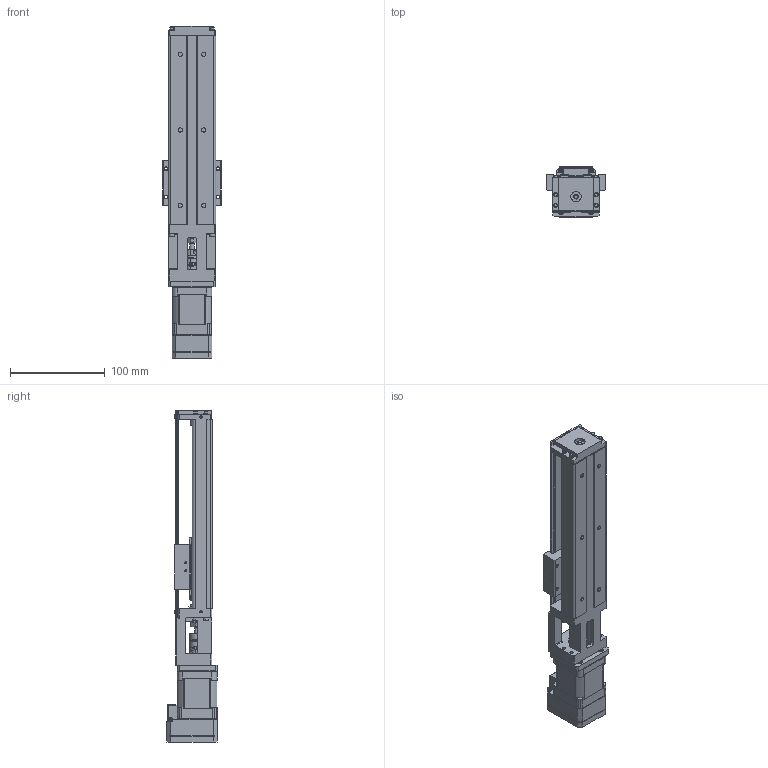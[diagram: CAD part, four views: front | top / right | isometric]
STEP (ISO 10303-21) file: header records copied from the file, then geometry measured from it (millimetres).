
FILE_DESCRIPTION (( 'STEP AP214' ), '1' );
FILE_NAME ('PA26-A-02-110-S-10A0-17L30-X.STEP', '2015-01-06T14:32:19', ( '' ), ( '' ), 'SwSTEP 2.0', 'SolidWorks 2015', '' );
FILE_SCHEMA (( 'AUTOMOTIVE_DESIGN' ));
Length unit declared in the file: millimetre
Products named in the file (5): RCLA16C-5-5; PA26-A-02-110-S-10A0; PA26-NEMA17-MountingBracket; CM1-X-17L30-NE-RENDER; PA26-A-02-110-S-10A0-17L30-X
Assembly tree (4 placements, depth 2):
  PA26-A-02-110-S-10A0-17L30-X
    CM1-X-17L30-NE-RENDER
    PA26-NEMA17-MountingBracket
    PA26-A-02-110-S-10A0
    RCLA16C-5-5
Bounding box: 62 x 53 x 351.3 mm (x, y, z)
Volume: 405195.8 mm3; surface area: 141673 mm2
Topology: 6 solids, 8 shells, 1806 faces, 4918 edges, 3166 vertices
Faces by surface type: plane 1040, cylinder 563, cone 161, bspline 20, torus 20, sphere 2
Entity records: 70582 total; most frequent: CARTESIAN_POINT 11141, DIRECTION 9704, ORIENTED_EDGE 9654, EDGE_CURVE 4866, VECTOR 3386, LINE 3386, VERTEX_POINT 3164, AXIS2_PLACEMENT_3D 3159
